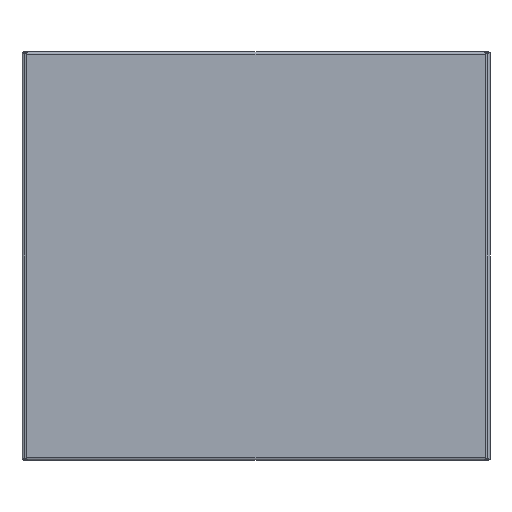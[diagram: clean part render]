
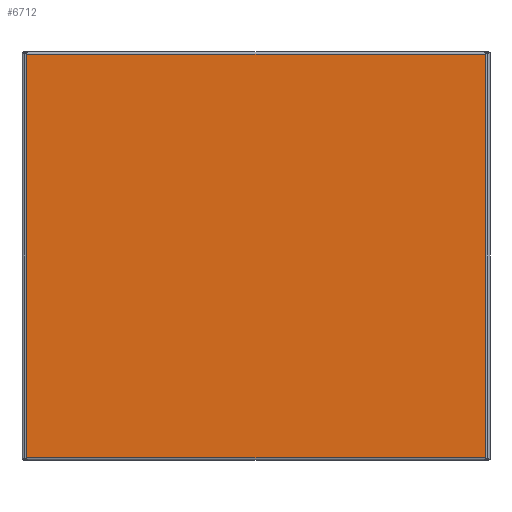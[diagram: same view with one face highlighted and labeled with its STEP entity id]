
A CAD part, front view. The second image highlights one B-rep face of the part: STEP entity #6712.
In plain terms, the highlighted planar face has unit normal (0, -1, 0).
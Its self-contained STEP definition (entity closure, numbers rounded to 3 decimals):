
#520=ORIENTED_EDGE('',*,*,#2484,.T.);
#521=ORIENTED_EDGE('',*,*,#2485,.F.);
#522=ORIENTED_EDGE('',*,*,#2486,.F.);
#523=ORIENTED_EDGE('',*,*,#2487,.T.);
#2484=EDGE_CURVE('',#3454,#3460,#4072,.T.);
#2485=EDGE_CURVE('',#3461,#3460,#4073,.T.);
#2486=EDGE_CURVE('',#3462,#3461,#4074,.T.);
#2487=EDGE_CURVE('',#3462,#3454,#4075,.T.);
#3454=VERTEX_POINT('',#10013);
#3460=VERTEX_POINT('',#10028);
#3461=VERTEX_POINT('',#10030);
#3462=VERTEX_POINT('',#10032);
#4072=LINE('',#10027,#4880);
#4073=LINE('',#10029,#4881);
#4074=LINE('',#10031,#4882);
#4075=LINE('',#10033,#4883);
#4880=VECTOR('',#8029,1000.);
#4881=VECTOR('',#8030,1000.);
#4882=VECTOR('',#8031,1000.);
#4883=VECTOR('',#8032,1000.);
#5564=EDGE_LOOP('',(#520,#521,#522,#523));
#5992=FACE_BOUND('',#5564,.T.);
#6411=PLANE('',#7290);
#6712=ADVANCED_FACE('',(#5992),#6411,.T.);
#7290=AXIS2_PLACEMENT_3D('',#10026,#8027,#8028);
#8027=DIRECTION('',(0.,-1.,0.));
#8028=DIRECTION('',(0.,0.,-1.));
#8029=DIRECTION('',(-1.,0.,0.));
#8030=DIRECTION('',(0.,0.,1.));
#8031=DIRECTION('',(-1.,0.,0.));
#8032=DIRECTION('',(0.,0.,1.));
#10013=CARTESIAN_POINT('',(298.54,0.,263.1));
#10026=CARTESIAN_POINT('',(0.,0.,0.));
#10027=CARTESIAN_POINT('',(298.54,0.,263.1));
#10028=CARTESIAN_POINT('',(-298.54,0.,263.1));
#10029=CARTESIAN_POINT('',(-298.54,0.,0.));
#10030=CARTESIAN_POINT('',(-298.54,0.,-263.1));
#10031=CARTESIAN_POINT('',(298.54,0.,-263.1));
#10032=CARTESIAN_POINT('',(298.54,0.,-263.1));
#10033=CARTESIAN_POINT('',(298.54,0.,0.));
